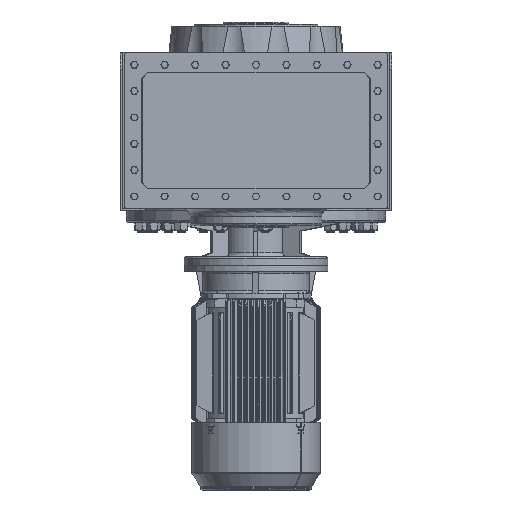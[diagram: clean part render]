
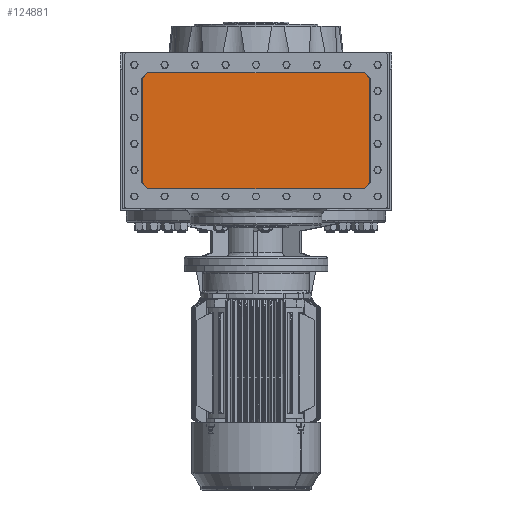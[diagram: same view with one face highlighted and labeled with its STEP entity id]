
A CAD part, front view. The second image highlights one B-rep face of the part: STEP entity #124881.
In plain terms, the highlighted planar face has unit normal (0, -1, 0).
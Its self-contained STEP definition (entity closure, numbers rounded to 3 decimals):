
#13162 = CARTESIAN_POINT ( 'NONE',  ( 0., -262., 0. ) ) ;
#13187 = DIRECTION ( 'NONE',  ( 0., -1., 0. ) ) ;
#13203 = PLANE ( 'NONE',  #41875 ) ;
#13208 = DIRECTION ( 'NONE',  ( 0., 0., -1. ) ) ;
#41875 = AXIS2_PLACEMENT_3D ( 'NONE', #13162, #13187, #13208 ) ;
#59076 = FACE_OUTER_BOUND ( 'NONE', #61470, .T. ) ;
#60116 = EDGE_CURVE ( 'NONE', #103463, #103656, #112492, .T. ) ;
#60145 = EDGE_CURVE ( 'NONE', #103587, #103530, #112584, .T. ) ;
#60149 = EDGE_CURVE ( 'NONE', #103592, #103614, #112591, .T. ) ;
#60160 = EDGE_CURVE ( 'NONE', #103564, #103587, #112572, .T. ) ;
#60177 = EDGE_CURVE ( 'NONE', #103530, #103463, #112691, .T. ) ;
#60200 = EDGE_CURVE ( 'NONE', #103656, #103592, #112649, .T. ) ;
#60202 = EDGE_CURVE ( 'NONE', #103584, #103564, #112762, .T. ) ;
#60211 = EDGE_CURVE ( 'NONE', #103614, #103584, #112668, .T. ) ;
#61470 = EDGE_LOOP ( 'NONE', ( #64098, #64157, #64022, #63895, #64111, #64094, #64107, #64122 ) ) ;
#63895 = ORIENTED_EDGE ( 'NONE', *, *, #60211, .F. ) ;
#64022 = ORIENTED_EDGE ( 'NONE', *, *, #60202, .F. ) ;
#64094 = ORIENTED_EDGE ( 'NONE', *, *, #60200, .F. ) ;
#64098 = ORIENTED_EDGE ( 'NONE', *, *, #60145, .F. ) ;
#64107 = ORIENTED_EDGE ( 'NONE', *, *, #60116, .F. ) ;
#64111 = ORIENTED_EDGE ( 'NONE', *, *, #60149, .F. ) ;
#64122 = ORIENTED_EDGE ( 'NONE', *, *, #60177, .F. ) ;
#64157 = ORIENTED_EDGE ( 'NONE', *, *, #60160, .F. ) ;
#79489 = CARTESIAN_POINT ( 'NONE',  ( -262.667, -262., 336.196 ) ) ;
#79551 = CARTESIAN_POINT ( 'NONE',  ( -277.196, -262., 321.667 ) ) ;
#79610 = CARTESIAN_POINT ( 'NONE',  ( 277.196, -262., 321.667 ) ) ;
#79612 = CARTESIAN_POINT ( 'NONE',  ( 262.667, -262., 53.804 ) ) ;
#79619 = CARTESIAN_POINT ( 'NONE',  ( -262.667, -262., 53.804 ) ) ;
#79621 = CARTESIAN_POINT ( 'NONE',  ( -277.196, -262., 68.333 ) ) ;
#79664 = CARTESIAN_POINT ( 'NONE',  ( 277.196, -262., 68.333 ) ) ;
#79727 = CARTESIAN_POINT ( 'NONE',  ( 262.667, -262., 336.196 ) ) ;
#103463 = VERTEX_POINT ( 'NONE', #79489 ) ;
#103530 = VERTEX_POINT ( 'NONE', #79551 ) ;
#103564 = VERTEX_POINT ( 'NONE', #79619 ) ;
#103584 = VERTEX_POINT ( 'NONE', #79612 ) ;
#103587 = VERTEX_POINT ( 'NONE', #79621 ) ;
#103592 = VERTEX_POINT ( 'NONE', #79610 ) ;
#103614 = VERTEX_POINT ( 'NONE', #79664 ) ;
#103656 = VERTEX_POINT ( 'NONE', #79727 ) ;
#110311 = DIRECTION ( 'NONE',  ( 1., 0., 0. ) ) ;
#110337 = CARTESIAN_POINT ( 'NONE',  ( 263., -262., 336.196 ) ) ;
#112492 = LINE ( 'NONE', #110337, #112497 ) ;
#112497 = VECTOR ( 'NONE', #110311, 1000. ) ;
#112535 = VECTOR ( 'NONE', #114807, 1000. ) ;
#112572 = LINE ( 'NONE', #114934, #112608 ) ;
#112584 = LINE ( 'NONE', #114859, #112614 ) ;
#112591 = LINE ( 'NONE', #114785, #112535 ) ;
#112608 = VECTOR ( 'NONE', #114958, 1000. ) ;
#112614 = VECTOR ( 'NONE', #114812, 1000. ) ;
#112649 = LINE ( 'NONE', #115404, #112758 ) ;
#112668 = LINE ( 'NONE', #115585, #112670 ) ;
#112670 = VECTOR ( 'NONE', #115596, 1000. ) ;
#112691 = LINE ( 'NONE', #115112, #112722 ) ;
#112694 = VECTOR ( 'NONE', #115485, 1000. ) ;
#112722 = VECTOR ( 'NONE', #115153, 1000. ) ;
#112758 = VECTOR ( 'NONE', #115384, 1000. ) ;
#112762 = LINE ( 'NONE', #115472, #112694 ) ;
#114785 = CARTESIAN_POINT ( 'NONE',  ( 277.196, -262., 68. ) ) ;
#114807 = DIRECTION ( 'NONE',  ( 0., 0., -1. ) ) ;
#114812 = DIRECTION ( 'NONE',  ( 0., 0., 1. ) ) ;
#114859 = CARTESIAN_POINT ( 'NONE',  ( -277.196, -262., 68. ) ) ;
#114934 = CARTESIAN_POINT ( 'NONE',  ( -262.432, -262., 53.568 ) ) ;
#114958 = DIRECTION ( 'NONE',  ( -0.707, 0., 0.707 ) ) ;
#115112 = CARTESIAN_POINT ( 'NONE',  ( -262.432, -262., 336.432 ) ) ;
#115153 = DIRECTION ( 'NONE',  ( 0.707, 0., 0.707 ) ) ;
#115384 = DIRECTION ( 'NONE',  ( 0.707, 0., -0.707 ) ) ;
#115404 = CARTESIAN_POINT ( 'NONE',  ( 277.432, -262., 321.432 ) ) ;
#115472 = CARTESIAN_POINT ( 'NONE',  ( 263., -262., 53.804 ) ) ;
#115485 = DIRECTION ( 'NONE',  ( -1., 0., 0. ) ) ;
#115585 = CARTESIAN_POINT ( 'NONE',  ( 262.432, -262., 53.568 ) ) ;
#115596 = DIRECTION ( 'NONE',  ( -0.707, 0., -0.707 ) ) ;
#124881 = ADVANCED_FACE ( 'NONE', ( #59076 ), #13203, .T. ) ;
